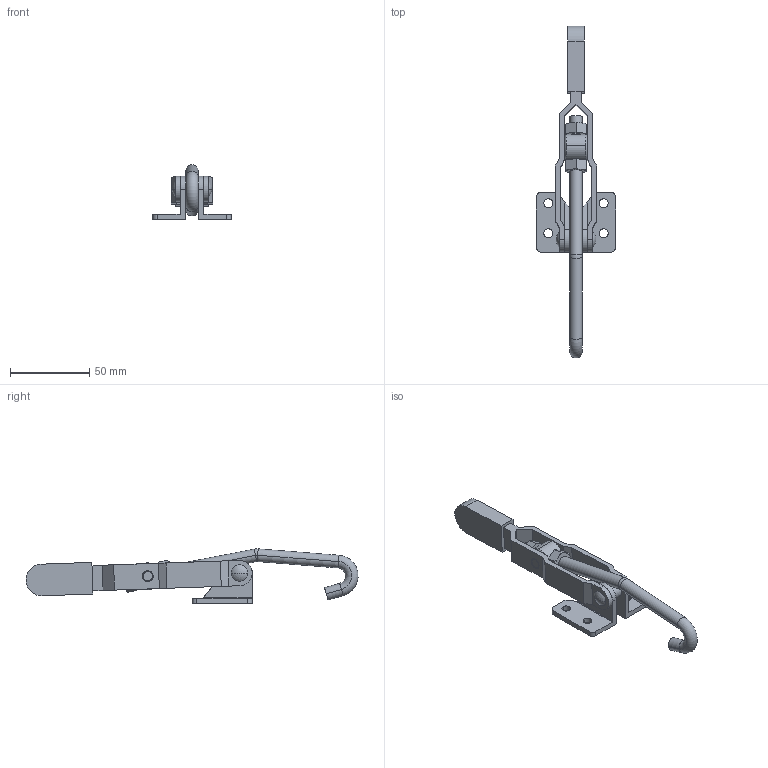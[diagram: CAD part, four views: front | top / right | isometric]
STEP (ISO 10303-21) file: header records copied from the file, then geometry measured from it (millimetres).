
FILE_DESCRIPTION(('CATIA V5 STEP Exchange'),'2;1');
FILE_NAME('D:\Model\toggle\toggle_standard\KJF_017_41F.stp','2005-06-24T03:13:48+00:00',('none'),('none'),'CATIA Version 5 Release 11 (IN-9)','CATIA V5 STEP AP203',' none');
FILE_SCHEMA(('CONFIG_CONTROL_DESIGN'));
Length unit declared in the file: millimetre
Products named in the file (1): Part1
Bounding box: 50 x 209.77 x 34.29 mm (x, y, z)
Volume: 39846.1 mm3; surface area: 25023.5 mm2
Topology: 9 solids, 9 shells, 160 faces, 405 edges, 264 vertices
Faces by surface type: plane 77, cylinder 55, cone 20, sphere 4, torus 4
Entity records: 4840 total; most frequent: CARTESIAN_POINT 1199, ORIENTED_EDGE 802, DIRECTION 581, EDGE_CURVE 401, VERTEX_POINT 264, AXIS2_PLACEMENT_3D 254, VECTOR 211, LINE 211
